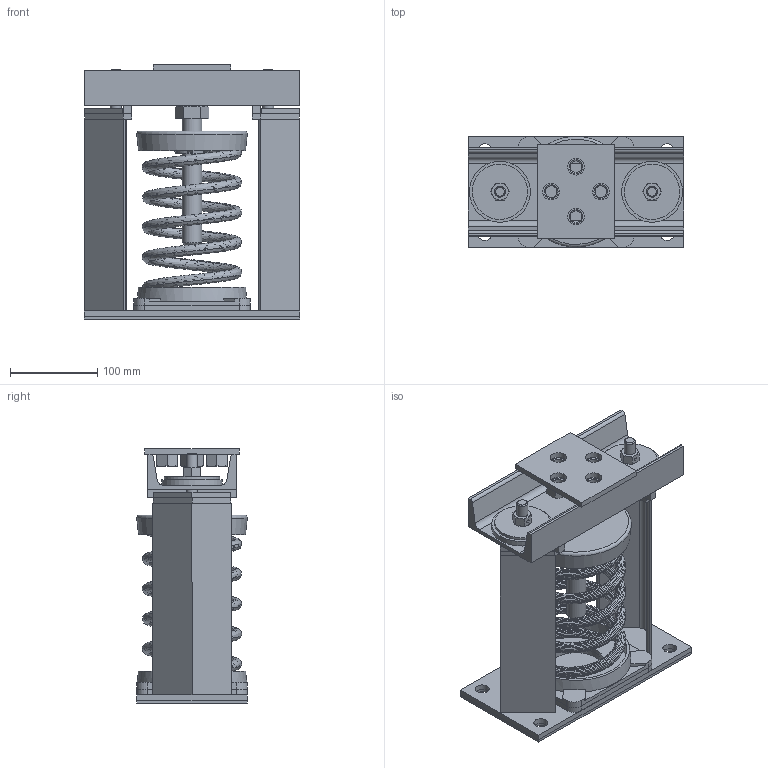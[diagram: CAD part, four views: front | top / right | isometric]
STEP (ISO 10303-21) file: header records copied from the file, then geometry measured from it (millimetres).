
FILE_DESCRIPTION(/* description */ (''),/* implementation_level */ '2;1');
FILE_NAME(/* name */ 'C:\001_Work\Designs\SLR-100 SERIES\SLR 100 SERIES (STOCK MOUNTS)\SLR 108-109-129-131\SLR-131.stp',/* time_stamp */ '2016-01-19T09:52:42-05:00',/* author */ ('rramoutar'),/* organization */ ('Mason Industries Inc.'),/* preprocessor_version */ 'ST-DEVELOPER v15.6',/* originating_system */ 'Autodesk Inventor 2015',/* authorisation */ '');
FILE_SCHEMA (('CONFIG_CONTROL_DESIGN'));
Length unit declared in the file: inch
Products named in the file (1): SLR-131 PER A-21743-2
Bounding box: 247.65 x 127 x 292.1 mm (x, y, z)
Volume: 1554766.4 mm3; surface area: 684632.2 mm2
Topology: 30 solids, 30 shells, 458 faces, 1073 edges, 691 vertices
Faces by surface type: plane 262, cone 104, cylinder 69, bspline 22, torus 1
Full cylindrical faces by diameter (mm): 9.525 x6, 10.592 x2, 12.7 x3, 13.386 x4, 15.875 x8, 17.462 x4, 19.05 x4, 19.447 x1, 22.225 x1, 34.925 x2, 41.275 x4, 63.5 x4, 69.85 x2, 116.681 x2
Entity records: 21273 total; most frequent: CARTESIAN_POINT 11144, ORIENTED_EDGE 1946, DIRECTION 1870, EDGE_CURVE 973, AXIS2_PLACEMENT_3D 702, VERTEX_POINT 659, EDGE_LOOP 604, STYLED_ITEM 488
